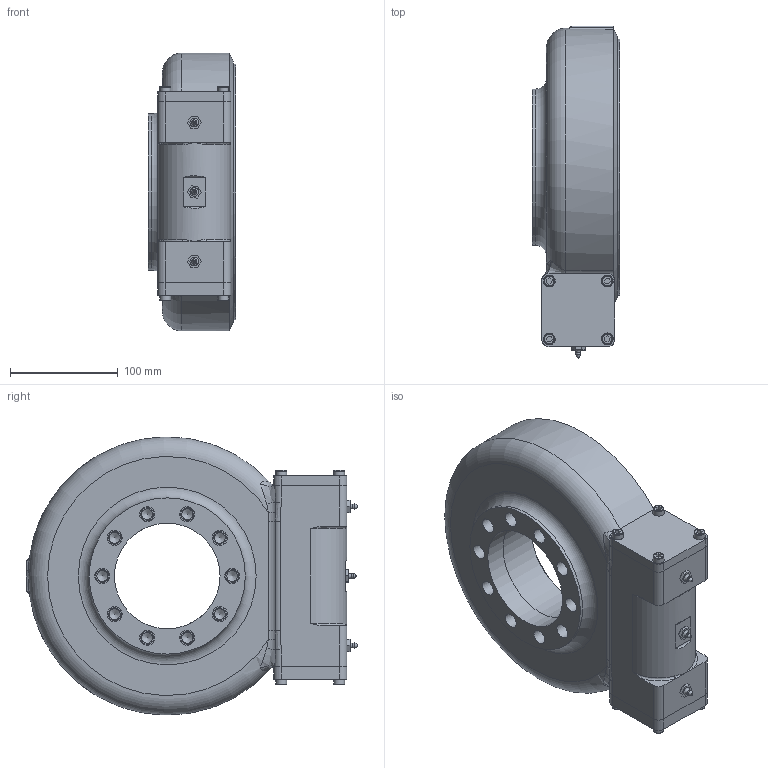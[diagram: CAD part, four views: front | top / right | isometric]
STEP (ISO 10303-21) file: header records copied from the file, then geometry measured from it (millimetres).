
FILE_DESCRIPTION (( 'STEP AP214' ), '1' );
FILE_NAME ('FGE7-73M-12S-R-REV.A.STEP', '2024-04-01T02:37:35', ( '' ), ( '' ), 'SwSTEP 2.0', 'SolidWorks 2018', '' );
FILE_SCHEMA (( 'AUTOMOTIVE_DESIGN' ));
Length unit declared in the file: millimetre
Products named in the file (1): FGE7-73M-12S-R-REV.A
Bounding box: 80.8 x 308 x 257.94 mm (x, y, z)
Volume: 2623780.8 mm3; surface area: 518953.2 mm2
Topology: 24 solids, 24 shells, 592 faces, 1303 edges, 834 vertices
Faces by surface type: plane 291, cylinder 194, cone 57, torus 29, bspline 18, sphere 3
Full cylindrical faces by diameter (mm): 6 x4, 6.8 x8, 7 x11, 8 x15, 8.5 x1, 9 x2, 10 x21, 10.2 x18, 11 x8, 12 x19, 13 x2, 14 x13, 15 x1, 18 x1, 25 x2, 32 x2, 39.7 x1, 46 x1, 52 x4, 58.3 x2, 65.3 x2, 98 x2, 145 x1, 145.35 x1, 161 x1, 163 x5, 237.5 x2, 244 x1, 255.5 x1
Entity records: 23360 total; most frequent: CARTESIAN_POINT 4523, DIRECTION 2572, ORIENTED_EDGE 2010, AXIS2_PLACEMENT_3D 1066, EDGE_CURVE 1005, EDGE_LOOP 976, VERTEX_POINT 771, FACE_OUTER_BOUND 764
